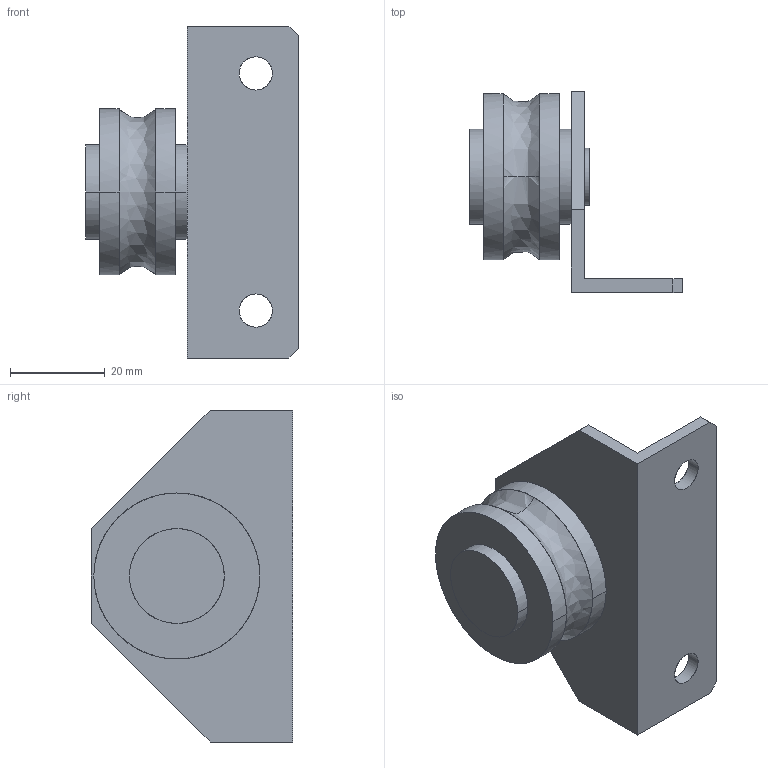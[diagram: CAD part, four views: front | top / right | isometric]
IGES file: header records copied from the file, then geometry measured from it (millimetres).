
Global section: file name: No Iges File Name specified; native system: AutoDesk Inventor R11.0; preprocessor: AutoDesk Inventor Iges Exporter R11.0; author: No Author specified; organization: No Organization specified; date: 20190511.110141; units: millimetre
Bounding box: 44.9 x 42.4 x 70 mm (x, y, z)
Surface area: 12298.7 mm2 (no closed solid volume)
Topology: 0 solids, 0 shells, 35 faces, 230 edges, 230 vertices
Faces by surface type: bspline 35
